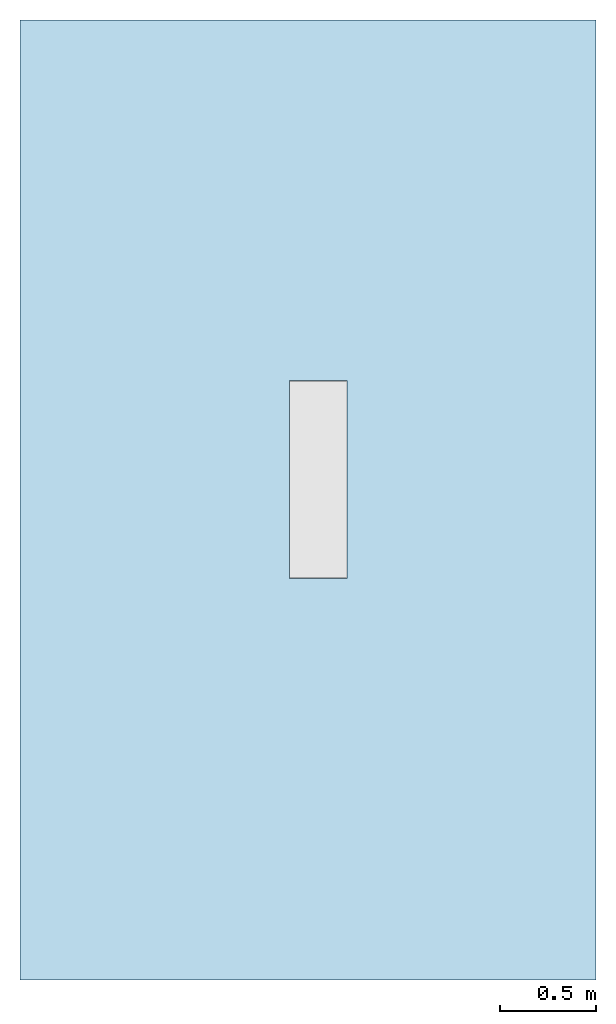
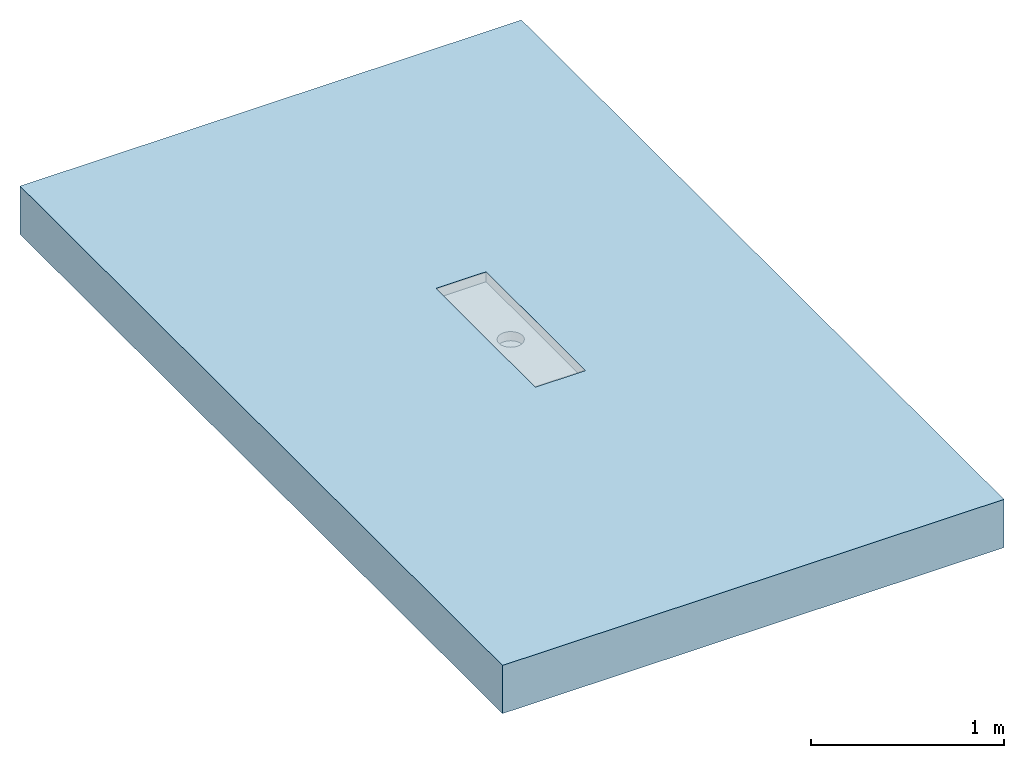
# One storey, incomplete: 1 slab, 1 opening.
"""IFC2X3 building model written with IfcOpenShell, lengths in millimetres."""

from ifc_helpers import new_model, entity, si_unit, converted_unit, derived_unit, direction, frame, frame_2d, origin, place, context, subcontext, project, spatial, rectangle, extrude, faceted_brep, material, layer, layer_set, layer_usage, element, save


model = new_model("IFC2X3")

# Units and contexts
model_context = context("Model", 3, precision=1e-05, world=origin(), true_north=direction((2.0, 6.12303176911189e-17, 1.0)))
context_of_model = context(None, 3, precision=1e-05, world=origin(), true_north=direction((2.0, 6.12303176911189e-17, 1.0)))
body_context = subcontext(model_context, "Body", "Model", "MODEL_VIEW")
ifc_project = project(units=[si_unit("LENGTHUNIT", "METRE", prefix="MILLI"), converted_unit("AREAUNIT", "SQUARE FOOT", entity("IfcRatioMeasure", 0.09290304), si_unit("AREAUNIT", "SQUARE_METRE"), dimensions=[2, 0, 0, 0, 0, 0, 0]), converted_unit("VOLUMEUNIT", "CUBIC FOOT", entity("IfcRatioMeasure", 0.028316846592), si_unit("VOLUMEUNIT", "CUBIC_METRE"), dimensions=[3, 0, 0, 0, 0, 0, 0]), converted_unit("PLANEANGLEUNIT", "DEGREE", entity("IfcRatioMeasure", 0.0174532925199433), si_unit("PLANEANGLEUNIT", "RADIAN"), dimensions=[0, 0, 0, 0, 0, 0, 0]), si_unit("MASSUNIT", "GRAM", prefix="KILO"), si_unit("TIMEUNIT", "SECOND"), si_unit("THERMODYNAMICTEMPERATUREUNIT", "KELVIN"), derived_unit("THERMALTRANSMITTANCEUNIT", [(si_unit("MASSUNIT", "GRAM", prefix="KILO"), 1), (si_unit("THERMODYNAMICTEMPERATUREUNIT", "KELVIN"), -1), (si_unit("TIMEUNIT", "SECOND"), -3)]), derived_unit("VOLUMETRICFLOWRATEUNIT", [(si_unit("LENGTHUNIT", "METRE"), 3), (si_unit("TIMEUNIT", "SECOND"), -1)]), si_unit("POWERUNIT", "WATT")], contexts=[model_context, context_of_model])

# Site, building, storey
site_placement = place(None, origin())
site = spatial("IfcSite", under=ifc_project, at=site_placement, Name="Default", CompositionType="ELEMENT")
building_placement = place(site_placement, origin())
building = spatial("IfcBuilding", under=site, at=building_placement, CompositionType="ELEMENT")
storey_placement = place(building_placement, origin())
storey = spatial("IfcBuildingStorey", under=building, at=storey_placement, Name="Level 1", CompositionType="ELEMENT", Elevation=0.0)

# Slab, opening
ifc_material = material(Name="Default Floor")
ifc_layer = layer(ifc_material, 304.8)
ifc_layer_set = layer_set([ifc_layer], Name="Floor:Generic - 12\"")
ifc_layer_usage = layer_usage(ifc_layer_set, "AXIS3", "POSITIVE", 0.0)
slab_placement = place(storey_placement, frame((-2592.42688678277, 381.838531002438, -304.8)))
slab = element("IfcSlab", 1, at=slab_placement, inside=storey, material=ifc_layer_usage, Name="Floor:Generic - 12\"", ObjectType="Floor:Generic - 12\"", PredefinedType="FLOOR", context=body_context, shape_type="SweptSolid", body=[
    extrude(rectangle(XDim=5000.0, YDim=3000.0, at=frame_2d((0.0, 0.0), x_axis=(0.0, -1.0))), frame((1500.0, 2500.0, 304.8), z_axis=(0.0, 0.0, -1.0), x_axis=(-1.0, 0.0, 0.0)), (0.0, 0.0, 1.0), 304.8),
])
opening_placement = place(slab_placement, frame((1403.98711917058, 2091.82561616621, 184.151793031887)))
element("IfcOpeningElement", 2, at=opening_placement, cuts=slab, ObjectType="Recess", context=body_context, shape_type="Brep", body=[
    faceted_brep([(300.0, 0.0, 57.8482069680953), (300.0, 0.0, 120.648206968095), (0.0, 0.0, 120.648206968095), (0.0, 0.0, 57.8482069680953), (0.0, 1030.0, 57.8482069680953), (0.0, 1030.0, 120.648206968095), (300.0, 1030.0, 120.648206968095), (300.0, 1030.0, 57.8482069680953), (114.499999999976, 453.512196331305, 57.8482069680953), (131.623847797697, 446.419266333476, 57.8482069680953), (99.7954185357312, 464.795418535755, 57.8482069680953), (150.0, 444.0, 57.8482069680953), (79.0, 515.0, 57.8482069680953), (81.4192663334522, 496.623847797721, 57.8482069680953), (88.5121963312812, 479.5, 57.8482069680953), (168.376152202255, 446.419266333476, 57.8482069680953), (185.499999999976, 453.512196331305, 57.8482069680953), (200.204581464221, 464.795418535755, 57.8482069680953), (211.487803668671, 479.5, 57.8482069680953), (218.5807336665, 496.623847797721, 57.8482069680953), (221.0, 515.0, 57.8482069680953), (88.5121963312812, 550.5, 57.8482069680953), (81.4192663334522, 533.37615220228, 57.8482069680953), (99.7954185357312, 565.204581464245, 57.8482069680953), (114.499999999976, 576.487803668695, 57.8482069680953), (131.623847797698, 583.580733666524, 57.8482069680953), (150.0, 586.0, 57.8482069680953), (218.5807336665, 533.376152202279, 57.8482069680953), (211.487803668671, 550.5, 57.8482069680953), (185.499999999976, 576.487803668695, 57.8482069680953), (168.376152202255, 583.580733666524, 57.8482069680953), (200.204581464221, 565.204581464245, 57.8482069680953), (168.376152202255, 446.419266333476, 0.0), (150.0, 444.0, 0.0), (131.623847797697, 446.419266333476, 0.0), (114.499999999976, 453.512196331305, 0.0), (99.7954185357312, 464.795418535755, 0.0), (88.5121963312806, 479.5, 0.0), (81.4192663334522, 496.623847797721, 0.0), (88.5121963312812, 550.5, 0.0), (185.499999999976, 576.487803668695, 0.0), (185.499999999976, 453.512196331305, 0.0), (200.204581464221, 464.795418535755, 0.0), (211.487803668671, 479.5, 0.0), (211.487803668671, 550.5, 0.0), (218.5807336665, 496.623847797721, 0.0), (221.0, 515.0, 0.0), (218.5807336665, 533.376152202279, 0.0), (81.4192663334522, 533.376152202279, 0.0), (99.7954185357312, 565.204581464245, 0.0), (114.499999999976, 576.487803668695, 0.0), (131.623847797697, 583.580733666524, 0.0), (168.376152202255, 583.580733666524, 0.0), (200.204581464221, 565.204581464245, 0.0), (150.0, 586.0, 0.0), (79.0, 515.0, 0.0)], [[[0, 1, 2]], [[2, 3, 0]], [[4, 5, 6]], [[6, 7, 4]], [[2, 1, 5]], [[6, 5, 1]], [[3, 2, 5]], [[5, 4, 3]], [[3, 8, 9]], [[8, 3, 10]], [[3, 9, 11]], [[12, 13, 3]], [[14, 10, 3]], [[13, 14, 3]], [[3, 4, 12]], [[0, 11, 15]], [[11, 0, 3]], [[0, 15, 16]], [[16, 17, 0]], [[18, 19, 0]], [[17, 18, 0]], [[0, 19, 20]], [[21, 22, 4]], [[23, 21, 4]], [[24, 4, 25]], [[4, 24, 23]], [[26, 25, 4]], [[4, 7, 26]], [[22, 12, 4]], [[27, 28, 7]], [[20, 27, 7]], [[29, 30, 7]], [[31, 7, 28]], [[7, 31, 29]], [[30, 26, 7]], [[20, 7, 0]], [[1, 0, 7]], [[7, 6, 1]], [[32, 33, 34]], [[35, 32, 34]], [[36, 37, 38]], [[35, 36, 39]], [[35, 40, 41]], [[35, 41, 32]], [[41, 40, 42]], [[43, 44, 45]], [[46, 45, 47]], [[44, 43, 42]], [[38, 48, 36]], [[48, 39, 36]], [[35, 39, 49]], [[50, 51, 35]], [[35, 49, 50]], [[52, 35, 51]], [[44, 40, 53]], [[44, 47, 45]], [[52, 40, 35]], [[42, 40, 44]], [[54, 52, 51]], [[48, 38, 55]], [[47, 27, 46]], [[44, 28, 47]], [[52, 54, 30]], [[53, 31, 44]], [[47, 28, 27]], [[27, 20, 46]], [[40, 29, 31]], [[29, 40, 30]], [[40, 52, 30]], [[31, 28, 44]], [[31, 53, 40]], [[54, 26, 30]], [[25, 51, 50]], [[49, 24, 50]], [[21, 39, 48]], [[49, 39, 23]], [[22, 48, 55]], [[51, 25, 26]], [[50, 24, 25]], [[49, 23, 24]], [[39, 21, 23]], [[22, 21, 48]], [[55, 12, 22]], [[51, 26, 54]], [[38, 13, 55]], [[37, 14, 38]], [[36, 35, 8]], [[37, 36, 10]], [[38, 14, 13]], [[13, 12, 55]], [[11, 9, 34]], [[9, 8, 35]], [[10, 36, 8]], [[10, 14, 37]], [[34, 9, 35]], [[34, 33, 11]], [[15, 32, 41]], [[42, 16, 41]], [[18, 43, 45]], [[42, 43, 17]], [[19, 45, 46]], [[32, 15, 11]], [[41, 16, 15]], [[42, 17, 16]], [[43, 18, 17]], [[19, 18, 45]], [[46, 20, 19]], [[32, 11, 33]]]),
])

save(model, "model.ifc")
